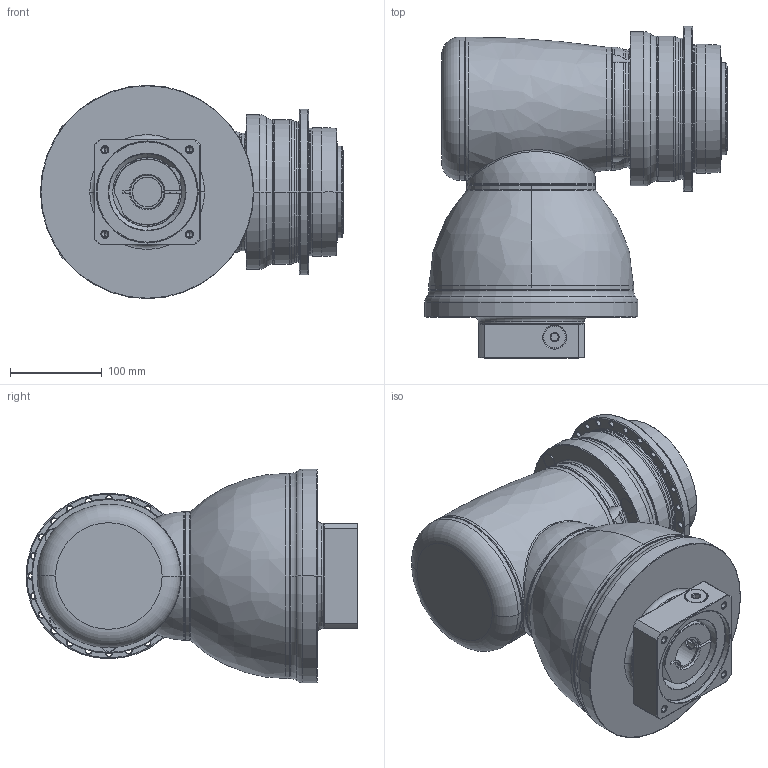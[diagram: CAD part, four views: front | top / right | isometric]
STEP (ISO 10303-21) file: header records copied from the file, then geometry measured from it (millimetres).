
FILE_DESCRIPTION((''),'2;1');
FILE_NAME('APK140_2ST_SBG_32-P0409710201_ASM','2018-10-30T',('d01226'),(''),'PRO/ENGINEER BY PARAMETRIC TECHNOLOGY CORPORATION, 2015240','PRO/ENGINEER BY PARAMETRIC TECHNOLOGY CORPORATION, 2015240','');
FILE_SCHEMA(('CONFIG_CONTROL_DESIGN'));
Length unit declared in the file: millimetre
Products named in the file (13): P0278501003; P0359501103; P1211500001; P1802510011; P1018600002; P1365600001; P1007601001; P1318610001; P0503700010; P0912650001; P0409710201; 21711418017; APK140_2ST_SBG_32-P0409710201_ASM
Assembly tree (12 placements, depth 2):
  APK140_2ST_SBG_32-P0409710201_ASM
    P0278501003
    P0359501103
    P1211500001
    P1802510011
    P1018600002
    P1365600001
    P1007601001
    P1318610001
    P0503700010
    P0912650001
    P0409710201
    21711418017
Bounding box: 329.5 x 361 x 232 mm (x, y, z)
Volume: 10686242.4 mm3; surface area: 786861 mm2
Topology: 13 solids, 38 shells, 854 faces, 1964 edges, 1195 vertices
Faces by surface type: cylinder 354, cone 229, plane 144, torus 101, bspline 24, sphere 2
Entity records: 30760 total; most frequent: CARTESIAN_POINT 10747, DIRECTION 4585, ORIENTED_EDGE 3738, AXIS2_PLACEMENT_3D 1965, EDGE_CURVE 1920, VERTEX_POINT 1195, CIRCLE 1100, EDGE_LOOP 1021
